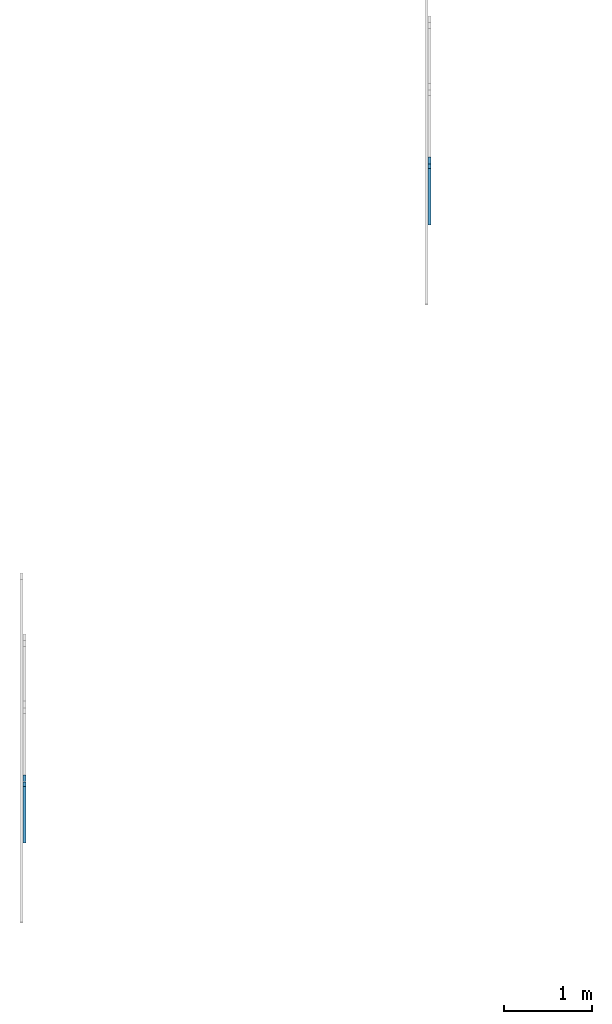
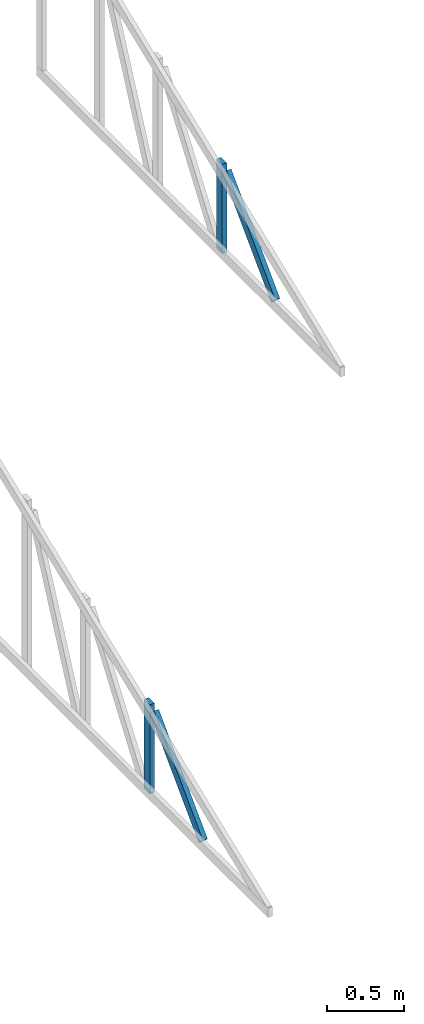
# One storey, part 4 of 4: 4 members, 2 elements without a shape of their own.
"""IFC4X3_ADD2 building model written with IfcOpenShell, lengths in millimetres."""

from ifc_helpers import new_model, entity, si_unit, converted_unit, frame, origin_with_axes, origin_2d_with_axis, place, context, subcontext, project, spatial, rectangle, extrude, material, material_profile, profile_set, profile_usage, type_object, element, aggregate, save


model = new_model("IFC4X3_ADD2")

# Units and contexts
model_context = context("Model", 3, precision=1e-05, world=origin_with_axes())
plan_context = context("Plan", 2, precision=1e-05, world=origin_2d_with_axis())
body_context = subcontext(model_context, "Body", "Model", "MODEL_VIEW")
ifc_project = project(units=[si_unit("VOLUMEUNIT", "CUBIC_METRE"), si_unit("LENGTHUNIT", "METRE", prefix="MILLI"), converted_unit("PLANEANGLEUNIT", "degree", entity("IfcReal", 0.0174532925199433), si_unit("PLANEANGLEUNIT", "RADIAN"), dimensions=[0, 0, 0, 0, 0, 0, 0]), si_unit("AREAUNIT", "SQUARE_METRE")], contexts=[model_context, plan_context])

# Site, building, storey
site_placement = place(None, origin_with_axes())
site = spatial("IfcSite", under=ifc_project, at=site_placement, Name="My Site")
building_placement = place(site_placement, origin_with_axes())
building = spatial("IfcBuilding", under=site, at=building_placement, Name="My Building")
storey_placement = place(building_placement, origin_with_axes())
storey = spatial("IfcBuildingStorey", under=building, at=storey_placement, Name="Riang Blok")

# Assembly, members
assembly_1_placement = place(storey_placement, frame((-9911.16714477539, 22422.9049682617, 6113.03901672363), z_axis=(0.0, 0.0, 1.0), x_axis=(1.0, 0.0, 0.0)))
assembly_1 = element("IfcElementAssembly", 1, at=assembly_1_placement, inside=storey, Name="KUDA KUDA 2_1")
ifc_material = material(Name="Galvanis")
ifc_material_profile = material_profile(ifc_material, rectangle(XDim=35.0, YDim=75.0))
ifc_profile_set = profile_set([ifc_material_profile])
ifc_profile_usage_1 = profile_usage(ifc_profile_set, cardinal=8)
member_type = type_object("IfcMemberType", Name="C75", PredefinedType="MEMBER", material=ifc_profile_set)
member_1_placement = place(assembly_1_placement, frame((17.4999237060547, -3079.02526855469, 0.0), z_axis=(2.73723716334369e-07, 0.702655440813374, 0.711530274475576), x_axis=(0.999999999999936, -3.56173444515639e-07, -3.29662732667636e-08)))
member_1 = element("IfcMember", 2, at=member_1_placement, type_object=member_type, material=ifc_profile_usage_1, Name="Member.019", context=body_context, shape_type="SweptSolid", body=[
    extrude(rectangle(XDim=35.0, YDim=75.0), frame((0.0, -37.5, 0.0), z_axis=(0.0, 0.0, 1.0), x_axis=(1.0, 0.0, 0.0)), (0.0, 0.0, 1.0), 905.77282346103),
])
ifc_profile_usage_2 = profile_usage(ifc_profile_set, cardinal=8)
member_2_placement = place(assembly_1_placement, frame((17.5008773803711, -2364.91966247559, 711.617469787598), z_axis=(-6.27832946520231e-07, -8.742269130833e-08, -0.999999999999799), x_axis=(-0.999999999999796, 1.1920928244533e-07, 6.27832946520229e-07)))
member_2 = element("IfcMember", 3, at=member_2_placement, type_object=member_type, material=ifc_profile_usage_2, Name="Member.021", context=body_context, shape_type="SweptSolid", body=[
    extrude(rectangle(XDim=35.0, YDim=75.0), frame((0.0, -37.5, 0.0), z_axis=(0.0, 0.0, 1.0), x_axis=(1.0, 0.0, 0.0)), (0.0, 0.0, 1.0), 711.617951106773),
])
aggregate(assembly_1, [member_1, member_2])

assembly_2_placement = place(storey_placement, frame((-14495.8400726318, 15426.399230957, 7658.15305709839), z_axis=(0.0, 0.0, 1.0), x_axis=(1.0, 0.0, 0.0)))
assembly_2 = element("IfcElementAssembly", 4, at=assembly_2_placement, inside=storey, Name="KUDA KUDA 2_0")
ifc_profile_usage_3 = profile_usage(ifc_profile_set, cardinal=8)
member_3_placement = place(assembly_2_placement, frame((17.4999237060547, -3079.02526855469, 0.0), z_axis=(2.73723716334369e-07, 0.702655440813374, 0.711530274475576), x_axis=(0.999999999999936, -3.56173444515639e-07, -3.29662732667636e-08)))
member_3 = element("IfcMember", 5, at=member_3_placement, type_object=member_type, material=ifc_profile_usage_3, Name="Member.015", context=body_context, shape_type="SweptSolid", body=[
    extrude(rectangle(XDim=35.0, YDim=75.0), frame((0.0, -37.5, 0.0), z_axis=(0.0, 0.0, 1.0), x_axis=(1.0, 0.0, 0.0)), (0.0, 0.0, 1.0), 905.774188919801),
])
ifc_profile_usage_4 = profile_usage(ifc_profile_set, cardinal=8)
member_4_placement = place(assembly_2_placement, frame((17.5008773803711, -2364.91966247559, 711.616992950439), z_axis=(-6.27832946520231e-07, -8.742269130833e-08, -0.999999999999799), x_axis=(-0.999999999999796, 1.1920928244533e-07, 6.27832946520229e-07)))
member_4 = element("IfcMember", 6, at=member_4_placement, type_object=member_type, material=ifc_profile_usage_4, Name="Member.025", context=body_context, shape_type="SweptSolid", body=[
    extrude(rectangle(XDim=35.0, YDim=75.0), frame((0.0, -37.5, 0.0), z_axis=(0.0, 0.0, 1.0), x_axis=(1.0, 0.0, 0.0)), (0.0, 0.0, 1.0), 711.617951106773),
])
aggregate(assembly_2, [member_3, member_4])

save(model, "model.ifc")
